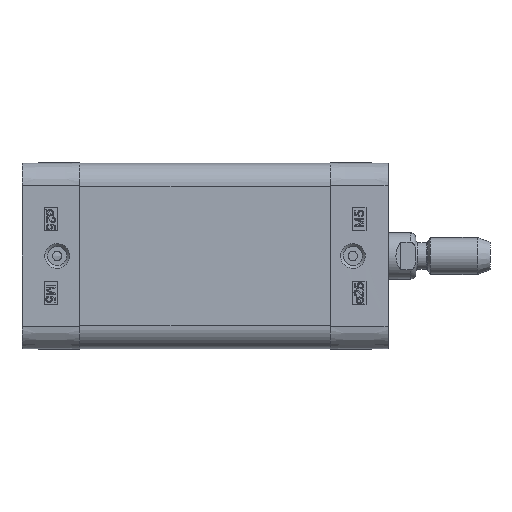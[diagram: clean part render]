
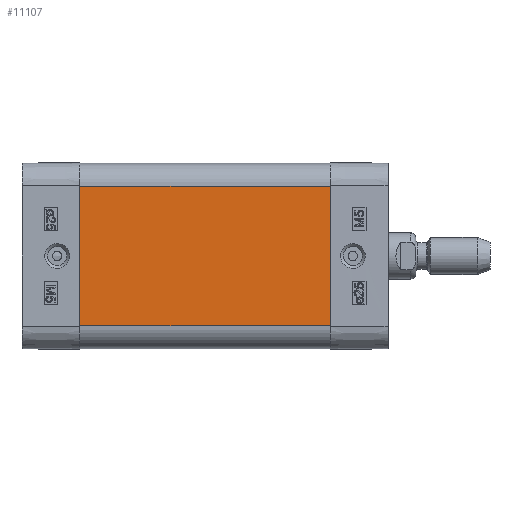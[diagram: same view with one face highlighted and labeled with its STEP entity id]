
A CAD part, left-side view. The second image highlights one B-rep face of the part: STEP entity #11107.
In plain terms, the highlighted planar face has unit normal (-1, 0, 0).
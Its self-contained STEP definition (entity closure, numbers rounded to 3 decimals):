
#8889=CARTESIAN_POINT('',(-20.,-54.0,15.0));
#8890=VERTEX_POINT('',#8889);
#8898=CARTESIAN_POINT('',(-20.,-54.0,-15.));
#8899=VERTEX_POINT('',#8898);
#8900=CARTESIAN_POINT('',(-20.,-54.0,-15.));
#8901=DIRECTION('',(0.0,0.0,1.0));
#8902=VECTOR('',#8901,30.);
#8903=LINE('',#8900,#8902);
#8904=EDGE_CURVE('',#8899,#8890,#8903,.T.);
#10035=CARTESIAN_POINT('',(-20.,0.0,15.0));
#10036=VERTEX_POINT('',#10035);
#10044=CARTESIAN_POINT('',(-20.,0.0,15.0));
#10045=DIRECTION('',(0.0,-1.0,0.0));
#10046=VECTOR('',#10045,54.0);
#10047=LINE('',#10044,#10046);
#10048=EDGE_CURVE('',#10036,#8890,#10047,.T.);
#11072=CARTESIAN_POINT('',(-20.,0.0,-15.));
#11073=VERTEX_POINT('',#11072);
#11074=CARTESIAN_POINT('',(-20.,0.0,-15.));
#11075=DIRECTION('',(0.0,-1.0,0.0));
#11076=VECTOR('',#11075,54.0);
#11077=LINE('',#11074,#11076);
#11078=EDGE_CURVE('',#11073,#8899,#11077,.T.);
#11091=CARTESIAN_POINT('',(-20.,0.0,-15.));
#11092=DIRECTION('',(-1.0,0.0,0.0));
#11093=DIRECTION('',(0.0,0.0,1.0));
#11094=AXIS2_PLACEMENT_3D('',#11091,#11092,#11093);
#11095=PLANE('',#11094);
#11096=ORIENTED_EDGE('',*,*,#8904,.T.);
#11097=ORIENTED_EDGE('',*,*,#10048,.F.);
#11098=CARTESIAN_POINT('',(-20.,0.0,-15.));
#11099=DIRECTION('',(0.0,0.0,1.0));
#11100=VECTOR('',#11099,30.);
#11101=LINE('',#11098,#11100);
#11102=EDGE_CURVE('',#11073,#10036,#11101,.T.);
#11103=ORIENTED_EDGE('',*,*,#11102,.F.);
#11104=ORIENTED_EDGE('',*,*,#11078,.T.);
#11105=EDGE_LOOP('',(#11096,#11097,#11103,#11104));
#11106=FACE_OUTER_BOUND('',#11105,.T.);
#11107=ADVANCED_FACE('',(#11106),#11095,.T.);
